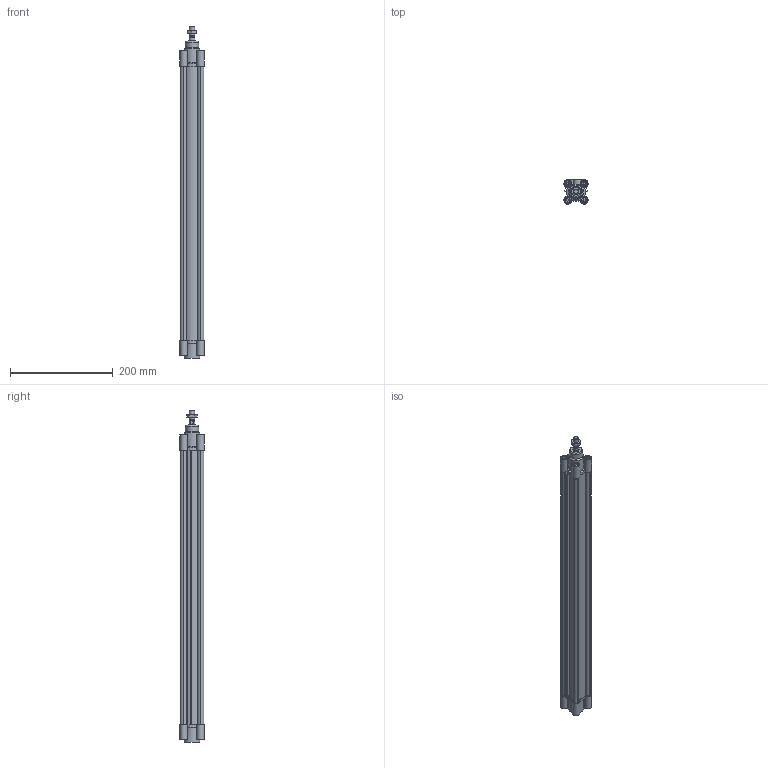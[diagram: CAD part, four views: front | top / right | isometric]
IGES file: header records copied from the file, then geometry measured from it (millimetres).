
Global section: file name: No Iges File Name specified; native system: Autodesk Inventor 2012; preprocessor: AutoDesk Inventor Iges Exporter R2012; author: pilonfr1; date: 20120128.095058; units: millimetre
Bounding box: 47 x 47 x 646.5 mm (x, y, z)
Volume: 487841.6 mm3; surface area: 310124.9 mm2
Topology: 5 solids, 5 shells, 316 faces, 788 edges, 522 vertices
Faces by surface type: plane 200, cylinder 54, revolution 39, cone 22, torus 1
Full cylindrical faces by diameter (mm): 8.8 x1, 10 x9, 11.5 x1, 12 x1, 26 x1, 30 x2, 32 x3
